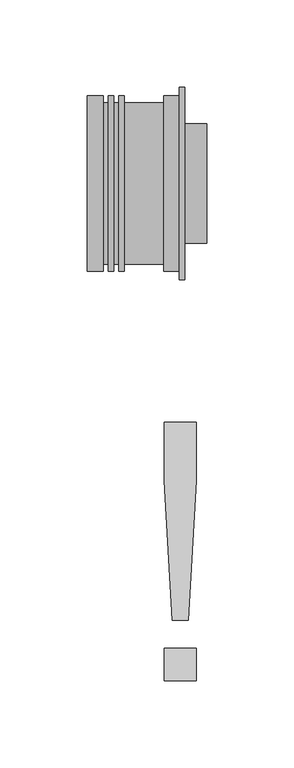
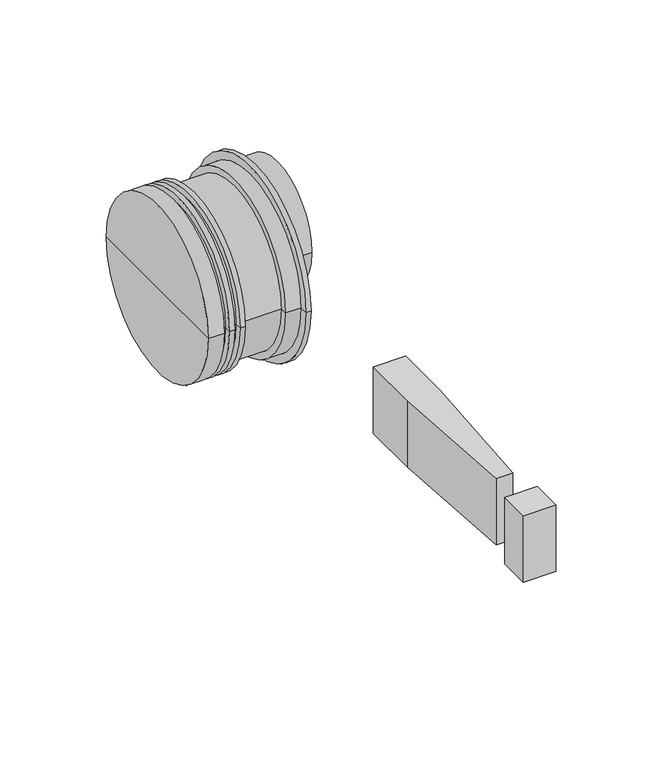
"""IFC4 building model written with IfcOpenShell, lengths in millimetres: pipe fitting geometry, UN_PIF_PP insert reducer verjongd_PipeLife : Black, var. DN/OD (max. ø125)."""

from ifc_helpers import new_model, si_unit, frame, origin, place, context, project, spatial, polyline, circle_curve, outline, extrude, source, transform, mapped, element, save
from ifc_brep_helpers import plane_surface, cylinder_surface, advanced_brep


def pipe_fitting_4b13026b(model_context):
    return source(origin(), model_context, "Body", "SolidModel", [
        extrude(outline(polyline([(-8.6893236, -284.4), (-8.6893236, -265.9384615), (9.7722149, -265.9384615), (9.7722149, -284.4), (-8.6893236, -284.4)])), frame((0.0, 0.0, -20.0), z_axis=(0.0, 0.0, 1.0), x_axis=(1.0, 0.0, 0.0)), (0.0, 0.0, 1.0), 40.0),
        extrude(outline(polyline([(-4.073939, -249.7846154), (-8.6893236, -170.0610577), (-8.6893236, -136.7076923), (9.7722149, -136.7076923), (9.7722149, -170.0610577), (5.1568303, -249.7846154), (-4.073939, -249.7846154)])), frame((0.0, 0.0, -20.0), z_axis=(0.0, 0.0, 1.0), x_axis=(1.0, 0.0, 0.0)), (0.0, 0.0, 1.0), 40.0),
        advanced_brep(
        [(-43.65, -50.25, 0.0), (-43.65, 50.25, 0.0), (-43.65, 46.25, 0.0), (-43.65, -46.25, 0.0), (-40.65, 46.25, 0.0), (-40.65, -46.25, 0.0), (-40.65, 50.25, 0.0), (-40.65, -50.25, 0.0), (-37.65, 50.25, 0.0), (-37.65, -50.25, 0.0), (-37.65, 46.25, 0.0), (-37.65, -46.25, 0.0), (-34.65, 46.25, 0.0), (-34.65, -46.25, 0.0), (-34.65, 50.25, 0.0), (-34.65, -50.25, 0.0), (-31.65, 50.25, 0.0), (-31.65, -50.25, 0.0), (-31.65, 46.25, 0.0), (-31.65, -46.25, 0.0), (-9.0, 46.25, 0.0), (-9.0, -46.25, 0.0), (-9.0, 50.25, 0.0), (-9.0, -50.25, 0.0), (0.0, 50.25, 0.0), (0.0, -50.25, 0.0), (0.0, 55.0, 0.0), (0.0, -55.0, 0.0), (3.0, 55.0, 0.0), (3.0, -55.0, 0.0), (3.0, 0.0, 0.0), (-52.65, 0.0, 0.0), (-52.65, 50.25, 0.0), (-52.65, -50.25, 0.0)],
        [
            (0, 1, circle_curve(frame((-43.65, 0.0, 0.0), z_axis=(1.0, 0.0, 0.0), x_axis=(0.0, 1.0, 0.0)), 50.25)),
            (1, 2),
            (2, 3, circle_curve(frame((-43.65, 0.0, 0.0), z_axis=(-1.0, 0.0, 0.0), x_axis=(0.0, 1.0, 0.0)), 46.25)),
            (3, 0),
            (1, 0, circle_curve(frame((-43.65, 0.0, 0.0), z_axis=(1.0, 0.0, 0.0), x_axis=(0.0, 1.0, 0.0)), 50.25)),
            (3, 2, circle_curve(frame((-43.65, 0.0, 0.0), z_axis=(-1.0, 0.0, 0.0), x_axis=(0.0, 1.0, 0.0)), 46.25)),
            (2, 4),
            (4, 5, circle_curve(frame((-40.65, 0.0, 0.0), z_axis=(-1.0, 0.0, 0.0), x_axis=(0.0, 1.0, 0.0)), 46.25)),
            (5, 3),
            (5, 4, circle_curve(frame((-40.65, 0.0, 0.0), z_axis=(-1.0, 0.0, 0.0), x_axis=(0.0, 1.0, 0.0)), 46.25)),
            (4, 6),
            (6, 7, circle_curve(frame((-40.65, 0.0, 0.0), z_axis=(-1.0, 0.0, 0.0), x_axis=(0.0, 1.0, 0.0)), 50.25)),
            (7, 5),
            (7, 6, circle_curve(frame((-40.65, 0.0, 0.0), z_axis=(-1.0, 0.0, 0.0), x_axis=(0.0, 1.0, 0.0)), 50.25)),
            (6, 8),
            (8, 9, circle_curve(frame((-37.65, 0.0, 0.0), z_axis=(-1.0, 0.0, 0.0), x_axis=(0.0, 1.0, 0.0)), 50.25)),
            (9, 7),
            (9, 8, circle_curve(frame((-37.65, 0.0, 0.0), z_axis=(-1.0, 0.0, 0.0), x_axis=(0.0, 1.0, 0.0)), 50.25)),
            (8, 10),
            (10, 11, circle_curve(frame((-37.65, 0.0, 0.0), z_axis=(-1.0, 0.0, 0.0), x_axis=(0.0, 1.0, 0.0)), 46.25)),
            (11, 9),
            (11, 10, circle_curve(frame((-37.65, 0.0, 0.0), z_axis=(-1.0, 0.0, 0.0), x_axis=(0.0, 1.0, 0.0)), 46.25)),
            (10, 12),
            (12, 13, circle_curve(frame((-34.65, 0.0, 0.0), z_axis=(-1.0, 0.0, 0.0), x_axis=(0.0, 1.0, 0.0)), 46.25)),
            (13, 11),
            (13, 12, circle_curve(frame((-34.65, 0.0, 0.0), z_axis=(-1.0, 0.0, 0.0), x_axis=(0.0, 1.0, 0.0)), 46.25)),
            (12, 14),
            (14, 15, circle_curve(frame((-34.65, 0.0, 0.0), z_axis=(-1.0, 0.0, 0.0), x_axis=(0.0, 1.0, 0.0)), 50.25)),
            (15, 13),
            (15, 14, circle_curve(frame((-34.65, 0.0, 0.0), z_axis=(-1.0, 0.0, 0.0), x_axis=(0.0, 1.0, 0.0)), 50.25)),
            (14, 16),
            (16, 17, circle_curve(frame((-31.65, 0.0, 0.0), z_axis=(-1.0, 0.0, 0.0), x_axis=(0.0, 1.0, 0.0)), 50.25)),
            (17, 15),
            (17, 16, circle_curve(frame((-31.65, 0.0, 0.0), z_axis=(-1.0, 0.0, 0.0), x_axis=(0.0, 1.0, 0.0)), 50.25)),
            (16, 18),
            (18, 19, circle_curve(frame((-31.65, 0.0, 0.0), z_axis=(-1.0, 0.0, 0.0), x_axis=(0.0, 1.0, 0.0)), 46.25)),
            (19, 17),
            (19, 18, circle_curve(frame((-31.65, 0.0, 0.0), z_axis=(-1.0, 0.0, 0.0), x_axis=(0.0, 1.0, 0.0)), 46.25)),
            (18, 20),
            (20, 21, circle_curve(frame((-9.0, 0.0, 0.0), z_axis=(-1.0, 0.0, 0.0), x_axis=(0.0, 1.0, 0.0)), 46.25)),
            (21, 19),
            (21, 20, circle_curve(frame((-9.0, 0.0, 0.0), z_axis=(-1.0, 0.0, 0.0), x_axis=(0.0, 1.0, 0.0)), 46.25)),
            (20, 22),
            (22, 23, circle_curve(frame((-9.0, 0.0, 0.0), z_axis=(-1.0, 0.0, 0.0), x_axis=(0.0, 1.0, 0.0)), 50.25)),
            (23, 21),
            (23, 22, circle_curve(frame((-9.0, 0.0, 0.0), z_axis=(-1.0, 0.0, 0.0), x_axis=(0.0, 1.0, 0.0)), 50.25)),
            (22, 24),
            (24, 25, circle_curve(frame((0.0, 0.0, 0.0), z_axis=(-1.0, 0.0, 0.0), x_axis=(0.0, 1.0, 0.0)), 50.25)),
            (25, 23),
            (25, 24, circle_curve(frame((0.0, 0.0, 0.0), z_axis=(-1.0, 0.0, 0.0), x_axis=(0.0, 1.0, 0.0)), 50.25)),
            (24, 26),
            (26, 27, circle_curve(frame((0.0, 0.0, 0.0), z_axis=(-1.0, 0.0, 0.0), x_axis=(0.0, 1.0, 0.0)), 55.0)),
            (27, 25),
            (27, 26, circle_curve(frame((0.0, 0.0, 0.0), z_axis=(-1.0, 0.0, 0.0), x_axis=(0.0, 1.0, 0.0)), 55.0)),
            (26, 28),
            (28, 29, circle_curve(frame((3.0, 0.0, 0.0), z_axis=(-1.0, 0.0, 0.0), x_axis=(0.0, 1.0, 0.0)), 55.0)),
            (29, 27),
            (29, 28, circle_curve(frame((3.0, 0.0, 0.0), z_axis=(-1.0, 0.0, 0.0), x_axis=(0.0, 1.0, 0.0)), 55.0)),
            (28, 30),
            (30, 29),
            (31, 32),
            (32, 33, circle_curve(frame((-52.65, 0.0, 0.0), z_axis=(-1.0, 0.0, 0.0), x_axis=(0.0, 1.0, 0.0)), 50.25)),
            (33, 31),
            (33, 32, circle_curve(frame((-52.65, 0.0, 0.0), z_axis=(-1.0, 0.0, 0.0), x_axis=(0.0, 1.0, 0.0)), 50.25)),
            (32, 1),
            (0, 33),
        ],
        [
            plane_surface(frame((-43.65, 0.0, 0.0), z_axis=(1.0, 0.0, 0.0), x_axis=(0.0, 1.0, 0.0))),
            cylinder_surface(frame((-52.65, 0.0, 0.0), z_axis=(-1.0, 0.0, 0.0), x_axis=(0.0, 1.0, 0.0)), 46.25),
            plane_surface(frame((-40.65, 0.0, 0.0), z_axis=(-1.0, 0.0, 0.0), x_axis=(0.0, 1.0, 0.0))),
            cylinder_surface(frame((-52.65, 0.0, 0.0), z_axis=(-1.0, 0.0, 0.0), x_axis=(0.0, 1.0, 0.0)), 50.25),
            plane_surface(frame((-37.65, 0.0, 0.0), z_axis=(1.0, 0.0, 0.0), x_axis=(0.0, 1.0, 0.0))),
            plane_surface(frame((-34.65, 0.0, 0.0), z_axis=(-1.0, 0.0, 0.0), x_axis=(0.0, 1.0, 0.0))),
            plane_surface(frame((-31.65, 0.0, 0.0), z_axis=(1.0, 0.0, 0.0), x_axis=(0.0, 1.0, 0.0))),
            plane_surface(frame((-9.0, 0.0, 0.0), z_axis=(-1.0, 0.0, 0.0), x_axis=(0.0, 1.0, 0.0))),
            plane_surface(frame((0.0, 0.0, 0.0), z_axis=(-1.0, 0.0, 0.0), x_axis=(0.0, 1.0, 0.0))),
            cylinder_surface(frame((-52.65, 0.0, 0.0), z_axis=(-1.0, 0.0, 0.0), x_axis=(0.0, 1.0, 0.0)), 55.0),
            plane_surface(frame((3.0, 0.0, 0.0), z_axis=(1.0, 0.0, 0.0), x_axis=(0.0, 1.0, 0.0))),
            plane_surface(frame((-52.65, 0.0, 0.0), z_axis=(-1.0, 0.0, 0.0), x_axis=(0.0, 1.0, 0.0))),
        ],
        [
            (0, [[1, 2, 3, 4]]),
            (0, [[5, -4, 6, -2]]),
            (1, [[-3, 7, 8, 9]]),
            (1, [[-6, -9, 10, -7]]),
            (2, [[-8, 11, 12, 13]]),
            (2, [[-10, -13, 14, -11]]),
            (3, [[-12, 15, 16, 17]]),
            (3, [[-14, -17, 18, -15]]),
            (4, [[-16, 19, 20, 21]]),
            (4, [[-18, -21, 22, -19]]),
            (1, [[-20, 23, 24, 25]]),
            (1, [[-22, -25, 26, -23]]),
            (5, [[-24, 27, 28, 29]]),
            (5, [[-26, -29, 30, -27]]),
            (3, [[-28, 31, 32, 33]]),
            (3, [[-30, -33, 34, -31]]),
            (6, [[-32, 35, 36, 37]]),
            (6, [[-34, -37, 38, -35]]),
            (1, [[-36, 39, 40, 41]]),
            (1, [[-38, -41, 42, -39]]),
            (7, [[-40, 43, 44, 45]]),
            (7, [[-42, -45, 46, -43]]),
            (3, [[-44, 47, 48, 49]]),
            (3, [[-46, -49, 50, -47]]),
            (8, [[-48, 51, 52, 53]]),
            (8, [[-50, -53, 54, -51]]),
            (9, [[-52, 55, 56, 57]]),
            (9, [[-54, -57, 58, -55]]),
            (10, [[-56, 59, 60]]),
            (10, [[-58, -60, -59]]),
            (11, [[61, 62, 63]]),
            (11, [[-63, 64, -61]]),
            (3, [[-62, 65, -1, 66]]),
            (3, [[-64, -66, -5, -65]]),
        ],
    ),
        advanced_brep(
        [(3.0, 0.0, 18.1), (3.0, 34.15, 18.1), (3.0, -34.15, 18.1), (15.55, 34.15, 18.1), (15.55, -34.15, 18.1), (15.55, 0.0, 18.1)],
        [
            (0, 1),
            (1, 2, circle_curve(frame((3.0, 0.0, 18.1), z_axis=(-1.0, 0.0, 0.0), x_axis=(0.0, 1.0, 0.0)), 34.15)),
            (2, 0),
            (2, 1, circle_curve(frame((3.0, 0.0, 18.1), z_axis=(-1.0, 0.0, 0.0), x_axis=(0.0, 1.0, 0.0)), 34.15)),
            (1, 3),
            (3, 4, circle_curve(frame((15.55, 0.0, 18.1), z_axis=(-1.0, 0.0, 0.0), x_axis=(0.0, 1.0, 0.0)), 34.15)),
            (4, 2),
            (4, 3, circle_curve(frame((15.55, 0.0, 18.1), z_axis=(-1.0, 0.0, 0.0), x_axis=(0.0, 1.0, 0.0)), 34.15)),
            (3, 5),
            (5, 4),
        ],
        [
            plane_surface(frame((3.0, 0.0, 18.1), z_axis=(-1.0, 0.0, 0.0), x_axis=(0.0, 1.0, 0.0))),
            cylinder_surface(frame((15.55, 0.0, 18.1), z_axis=(-1.0, 0.0, 0.0), x_axis=(0.0, 1.0, 0.0)), 34.15),
            plane_surface(frame((15.55, 0.0, 18.1), z_axis=(1.0, 0.0, 0.0), x_axis=(0.0, 1.0, 0.0))),
        ],
        [
            (0, [[1, 2, 3]]),
            (0, [[-3, 4, -1]]),
            (1, [[-2, 5, 6, 7]]),
            (1, [[-4, -7, 8, -5]]),
            (2, [[-6, 9, 10]]),
            (2, [[-8, -10, -9]]),
        ],
    ),
    ])


if __name__ == "__main__":
    model = new_model("IFC4")
    model_context = context("Model", 3, world=origin())
    ifc_project = project(units=[si_unit("LENGTHUNIT", "METRE", prefix="MILLI")], contexts=[model_context])
    site = spatial("IfcSite", under=ifc_project)
    building = spatial("IfcBuilding", under=site)
    placement = place(None, origin())
    pipe_fitting_shape = pipe_fitting_4b13026b(model_context)
    element("IfcPipeFitting", 1, ObjectType="UN_PIF_PP insert reducer verjongd_PipeLife : Black, var. DN/OD (max. ø125)", at=placement, inside=building, context=model_context, shape_type="MappedRepresentation", body=[
        mapped(pipe_fitting_shape, transform((0.0, 0.0, 0.0), x_axis=(1.0, 0.0, 0.0), y_axis=(0.0, 1.0, 0.0), z_axis=(0.0, 0.0, 1.0))),
    ])
    save(model, "model.ifc")
